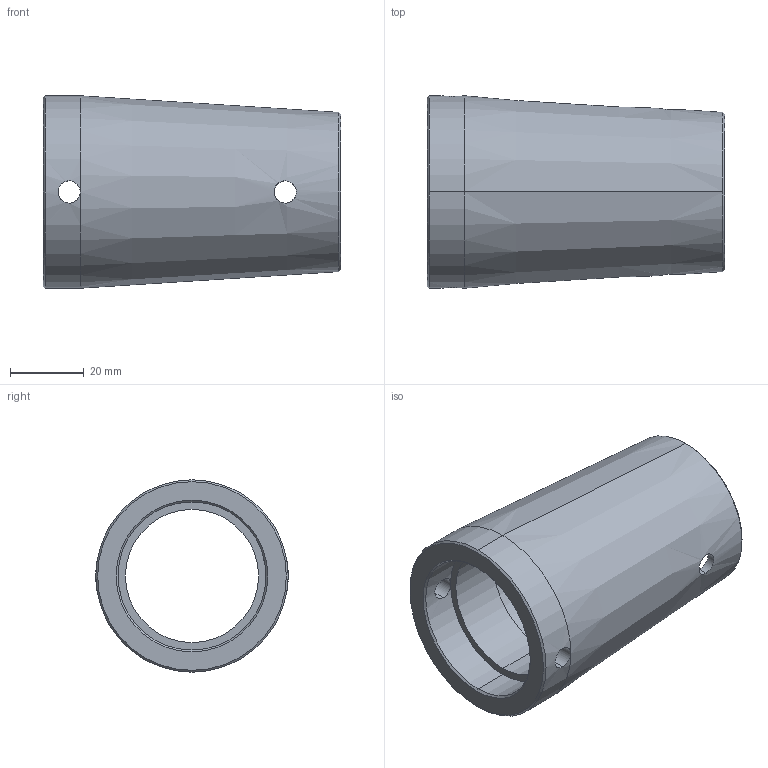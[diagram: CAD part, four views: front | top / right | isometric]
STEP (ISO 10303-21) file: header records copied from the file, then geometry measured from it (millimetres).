
FILE_DESCRIPTION (( 'STEP AP203' ), '1' );
FILE_NAME ('Abdeckhülse M36.STEP', '2018-02-20T06:51:22', ( 'install' ), ( 'Hewlett-Packard Company' ), 'SwSTEP 2.0', 'SolidWorks 2017', '' );
FILE_SCHEMA (( 'CONFIG_CONTROL_DESIGN' ));
Length unit declared in the file: millimetre
Products named in the file (1): Abdeckhülse M36
Bounding box: 80.4 x 52 x 52 mm (x, y, z)
Volume: 55128.2 mm3; surface area: 23235.6 mm2
Topology: 1 solids, 1 shells, 31 faces, 82 edges, 50 vertices
Faces by surface type: cylinder 18, cone 8, plane 5
Entity records: 1541 total; most frequent: CARTESIAN_POINT 694, ORIENTED_EDGE 164, DIRECTION 158, EDGE_CURVE 82, AXIS2_PLACEMENT_3D 66, VERTEX_POINT 50, EDGE_LOOP 38, CIRCLE 34
